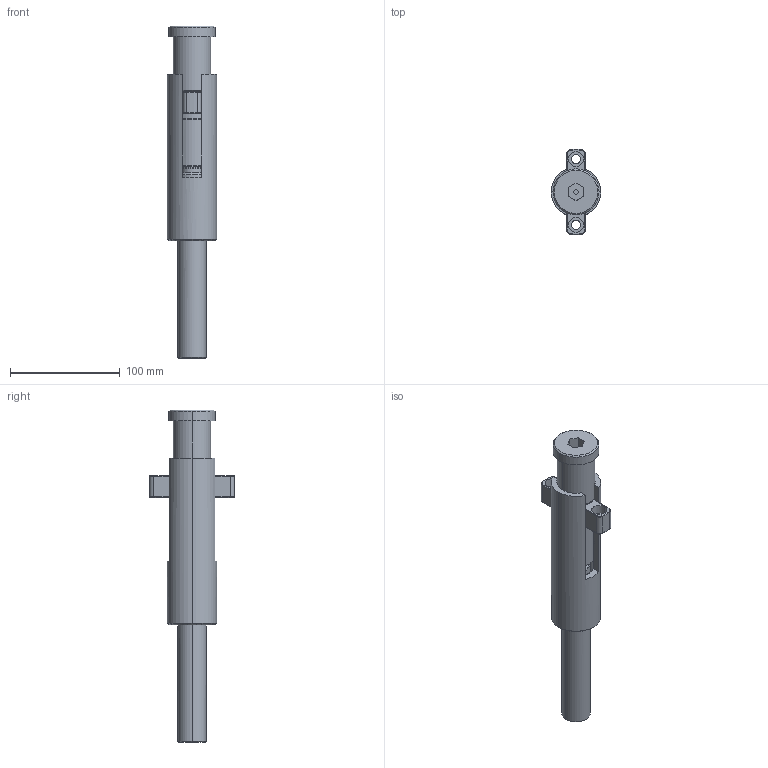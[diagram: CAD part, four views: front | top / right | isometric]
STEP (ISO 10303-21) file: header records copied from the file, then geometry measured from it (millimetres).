
FILE_DESCRIPTION (( 'STEP AP203' ), '1' );
FILE_NAME ('DKL4511.STEP', '2013-08-26T11:21:35', ( '' ), ( '' ), 'SwSTEP 2.0', 'SolidWorks 2013', '' );
FILE_SCHEMA (( 'CONFIG_CONTROL_DESIGN' ));
Length unit declared in the file: millimetre
Products named in the file (9): DKL4041; DKL4081; DKL4071; DKL4011; DKL4511; DKL4031; DKL4062; DKL4051; DKL4021
Assembly tree (11 placements, depth 2):
  DKL4511
    DKL4031
    DKL4062  x4
    DKL4051
    DKL4021
    DKL4041
    DKL4081
    DKL4071
    DKL4011
Bounding box: 45 x 77.93 x 303 mm (x, y, z)
Volume: 296058.7 mm3; surface area: 90924.2 mm2
Topology: 11 solids, 11 shells, 469 faces, 1103 edges, 666 vertices
Faces by surface type: plane 156, cylinder 140, cone 117, torus 54, bspline 2
Entity records: 15836 total; most frequent: CARTESIAN_POINT 5640, DIRECTION 2083, ORIENTED_EDGE 1822, EDGE_CURVE 911, AXIS2_PLACEMENT_3D 842, VERTEX_POINT 555, CIRCLE 439, EDGE_LOOP 434
